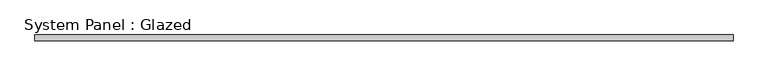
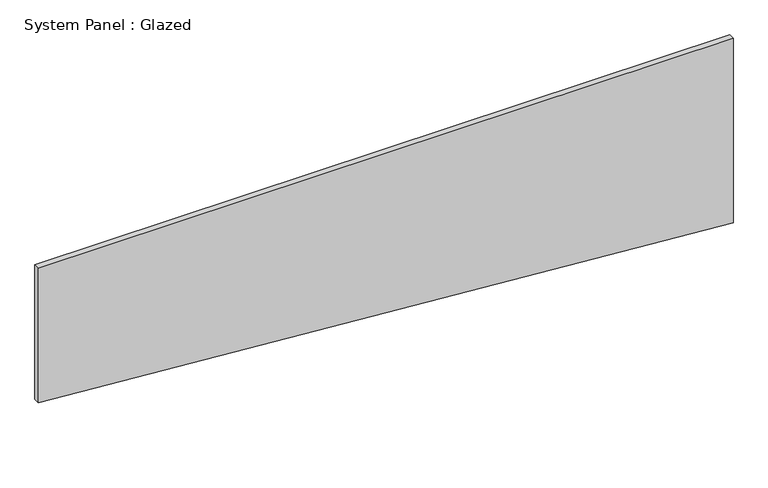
"""IFC4 building model written with IfcOpenShell, lengths in millimetres: plate geometry, System Panel : Glazed."""

from ifc_helpers import new_model, si_unit, frame, origin, place, context, project, spatial, polyline, outline, extrude, source, transform, mapped, element, save


def system_panel_glazed_69d86347(model_context):
    return source(origin(), model_context, "Body", "SweptSolid", [
        extrude(outline(polyline([(229.8315999, -1504.95), (0.0, 1504.95), (845.1882453, 1504.95), (845.1882453, -1504.95), (229.8315999, -1504.95)])), frame((0.0, 19.05, 0.0), z_axis=(0.0, 1.0, 0.0), x_axis=(0.0, 0.0, 1.0)), (0.0, 0.0, 1.0), 25.4),
    ])


if __name__ == "__main__":
    model = new_model("IFC4")
    model_context = context("Model", 3, world=origin())
    ifc_project = project(units=[si_unit("LENGTHUNIT", "METRE", prefix="MILLI")], contexts=[model_context])
    site = spatial("IfcSite", under=ifc_project)
    building = spatial("IfcBuilding", under=site)
    placement = place(None, origin())
    system_panel_glazed_shape = system_panel_glazed_69d86347(model_context)
    element("IfcPlate", 1, ObjectType="System Panel : Glazed", at=placement, inside=building, context=model_context, shape_type="MappedRepresentation", body=[
        mapped(system_panel_glazed_shape, transform((0.0, 0.0, 0.0), x_axis=(1.0, 0.0, 0.0), y_axis=(0.0, 1.0, 0.0), z_axis=(0.0, 0.0, 1.0))),
    ])
    save(model, "model.ifc")
